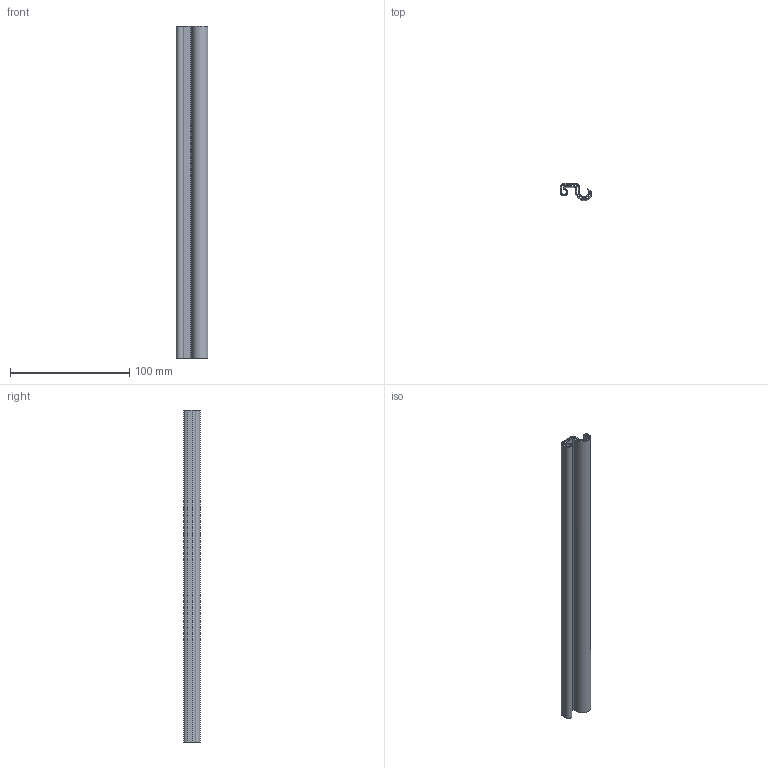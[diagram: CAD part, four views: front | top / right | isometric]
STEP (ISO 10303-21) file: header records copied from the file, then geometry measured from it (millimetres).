
FILE_DESCRIPTION(/* description */ (''),/* implementation_level */ '2;1');
FILE_NAME(/* name */ 'H:\3D_KONSTRUKCE\ROLETA+CHLEBNIK\ROLETA_RENDER\roleta_280x50mm_mainpart.stp',/* time_stamp */ '2016-01-21T10:36:35+01:00',/* author */ ('uidn2323'),/* organization */ (''),/* preprocessor_version */ 'ST-DEVELOPER v15.6',/* originating_system */ 'Autodesk Inventor 2015',/* authorisation */ '');
FILE_SCHEMA (('AUTOMOTIVE_DESIGN { 1 0 10303 214 3 1 1 }'));
Length unit declared in the file: millimetre
Products named in the file (1): roletka
Bounding box: 26.11 x 13.85 x 278 mm (x, y, z)
Volume: 20619.4 mm3; surface area: 51871.3 mm2
Topology: 1 solids, 1 shells, 30 faces, 84 edges, 56 vertices
Faces by surface type: plane 18, cylinder 12
Entity records: 1000 total; most frequent: CARTESIAN_POINT 171, DIRECTION 170, ORIENTED_EDGE 168, EDGE_CURVE 84, LINE 60, VECTOR 60, VERTEX_POINT 56, AXIS2_PLACEMENT_3D 55
